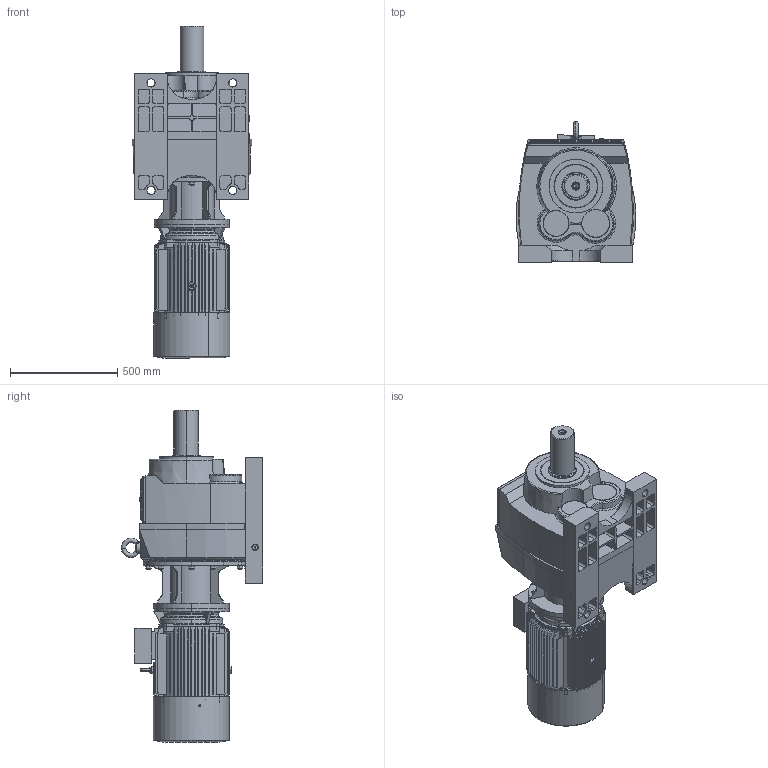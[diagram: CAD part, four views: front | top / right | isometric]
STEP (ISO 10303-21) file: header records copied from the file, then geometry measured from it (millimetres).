
FILE_DESCRIPTION (( 'STEP AP203' ), '1' );
FILE_NAME ('MV872-MV873-M3-180L.STEP', '2019-07-24T09:54:26', ( '' ), ( '' ), 'SwSTEP 2.0', 'SolidWorks 2012', '' );
FILE_SCHEMA (( 'CONFIG_CONTROL_DESIGN' ));
Products named in the file (12): Y2-180C++A+¦-¯ª¦+¦_-++ñ; MV872-MV873-M3-180L; M3-180L-FF-B5; Y2-180-4.6.8+ª-¯ª­-È®+_-++ñ; Y2-180LB5+À+¿_-++ñ; Y2-180-4.6.8-ª+---®+_-++ñ; Y2-180+¦i-_-++ñ; ML8A_Varsayìlan; 83A180B5_Varsayìlan; MN_87_3_0_A-B18_B5_ML8A_0_0_0_0_0_0_0_0_0_0_0_0_M1; Eyebolts GB_GB_FASTENER_SCREWS_FRS M12; M873_Varsayìlan
Assembly tree (11 placements, depth 3):
  MV872-MV873-M3-180L
    MN_87_3_0_A-B18_B5_ML8A_0_0_0_0_0_0_0_0_0_0_0_0_M1
      M873_Varsayìlan
      83A180B5_Varsayìlan
      ML8A_Varsayìlan
    M3-180L-FF-B5
      Eyebolts GB_GB_FASTENER_SCREWS_FRS M12
      Y2-180LB5+À+¿_-++ñ
      Y2-180+¦i-_-++ñ
      Y2-180-4.6.8-ª+---®+_-++ñ
      Y2-180C++A+¦-¯ª¦+¦_-++ñ
      Y2-180-4.6.8+ª-¯ª­-È®+_-++ñ
Bounding box: 557.16 x 657 x 1544.5 mm (x, y, z)
Volume: 137238865.8 mm3; surface area: 5888346.5 mm2
Topology: 10 solids, 10 shells, 2265 faces, 5711 edges, 3592 vertices
Faces by surface type: plane 810, cone 634, cylinder 619, bspline 170, torus 32
Entity records: 90439 total; most frequent: CARTESIAN_POINT 36638, ORIENTED_EDGE 11414, DIRECTION 10457, EDGE_CURVE 5707, AXIS2_PLACEMENT_3D 4045, VERTEX_POINT 3592, EDGE_LOOP 2473, LINE 2367
